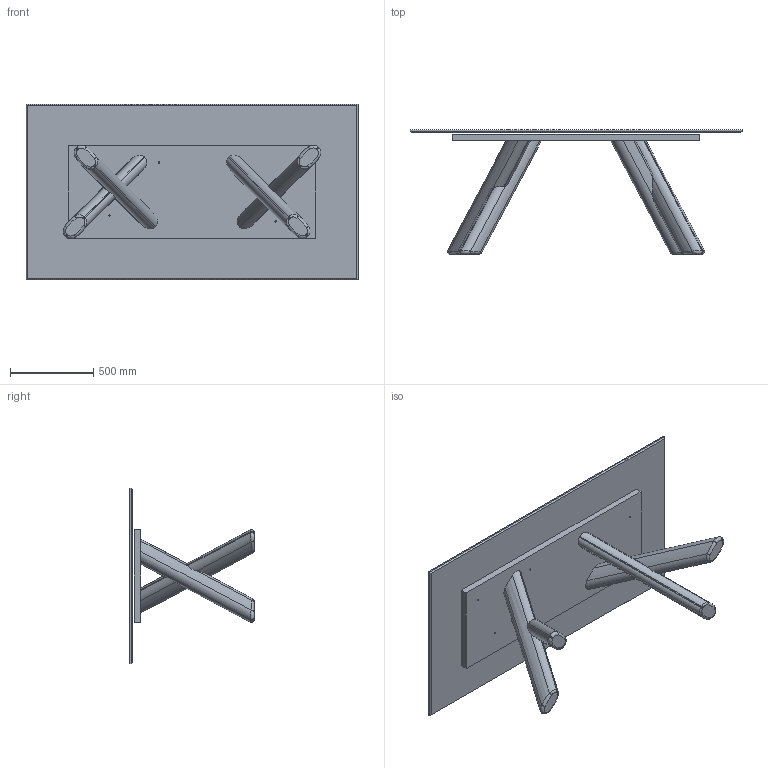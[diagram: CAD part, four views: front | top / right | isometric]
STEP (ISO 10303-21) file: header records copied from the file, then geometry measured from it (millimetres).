
FILE_DESCRIPTION (( 'STEP AP203' ), '1' );
FILE_NAME ('CN21C_CANOVA_top ceramica 200x106x75h.STEP', '2025-04-15T07:03:32', ( '' ), ( '' ), 'SwSTEP 2.0', 'SolidWorks 2022', '' );
FILE_SCHEMA (( 'CONFIG_CONTROL_DESIGN' ));
Length unit declared in the file: millimetre
Products named in the file (5): CAMP_00056-00-Assieme Basamento con gambe in legno incrociate_leggero; CAMP_00057-00-Gamba in legno Esterna_leggero; CAMP_00058-00-Gamba in legno Interna_leggero; PIANI_modello 3D x web_Ceramica 200x106; CN21C_CANOVA_top ceramica 200x106x75h
Assembly tree (5 placements, depth 3):
  CN21C_CANOVA_top ceramica 200x106x75h
    PIANI_modello 3D x web_Ceramica 200x106
    CAMP_00056-00-Assieme Basamento con gambe in legno incrociate_leggero  x2
      CAMP_00057-00-Gamba in legno Esterna_leggero
      CAMP_00058-00-Gamba in legno Interna_leggero
Bounding box: 2000 x 748 x 1060 mm (x, y, z)
Volume: 105203861.8 mm3; surface area: 7602367.8 mm2
Topology: 6 solids, 6 shells, 164 faces, 394 edges, 248 vertices
Faces by surface type: cylinder 90, bspline 36, plane 30, cone 8
Entity records: 4304 total; most frequent: CARTESIAN_POINT 1588, ORIENTED_EDGE 486, DIRECTION 421, EDGE_CURVE 243, AXIS2_PLACEMENT_3D 165, VERTEX_POINT 154, EDGE_LOOP 123, ADVANCED_FACE 100
